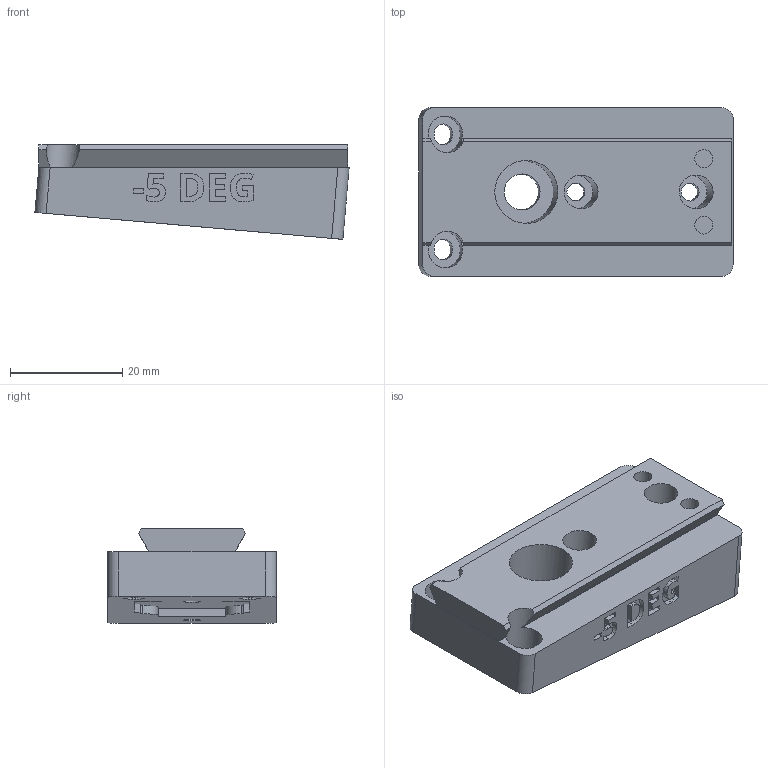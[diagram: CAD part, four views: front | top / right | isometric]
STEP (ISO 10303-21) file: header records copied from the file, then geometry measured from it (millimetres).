
FILE_DESCRIPTION(/* description */ ('STEP AP242 Edition 2','CAx-IF Rec.Pracs.---Representation and Presentation of Product Manufacturing Information (PMI)---4.0---2014-10-13','CAx-IF Rec.Pracs.---3D Tessellated Geometry---0.4---2014-09-14','2;1','CAx-IF Rec.Pracs.---User Defined Attributes---1.5---2016-08-15'),/* implementation_level */ '2;1');
FILE_NAME(/* name */ 'Camera Wedges - CAMERA MOUNTING WEDGE, NEG, -5 DEG',/* time_stamp */ '2026-08-11T00:11:21Z',/* author */ (''),/* organization */ (''),/* preprocessor_version */ 'ST-DEVELOPER v20',/* originating_system */ 'ONSHAPE BY PTC INC, 1.219',/* authorisation */ ' ');
FILE_SCHEMA (('AP242_MANAGED_MODEL_BASED_3D_ENGINEERING_MIM_LF { 1 0 10303 442 3 1 4 }'));
Length unit declared in the file: metre
Products named in the file (1): CAMERA MOUNTING WEDGE, NEG, -5 DEG
Bounding box: 55.91 x 30 x 16.85 mm (x, y, z)
Volume: 17914.1 mm3; surface area: 7267.7 mm2
Topology: 1 solids, 1 shells, 223 faces, 607 edges, 404 vertices
Faces by surface type: plane 135, cylinder 46, bspline 42
Full cylindrical faces by diameter (mm): 3.2 x4, 6 x2, 6.4 x1, 11.2 x1
Entity records: 7159 total; most frequent: CARTESIAN_POINT 1689, ORIENTED_EDGE 1198, DIRECTION 983, EDGE_CURVE 599, LINE 411, VECTOR 411, VERTEX_POINT 404, AXIS2_PLACEMENT_3D 286
